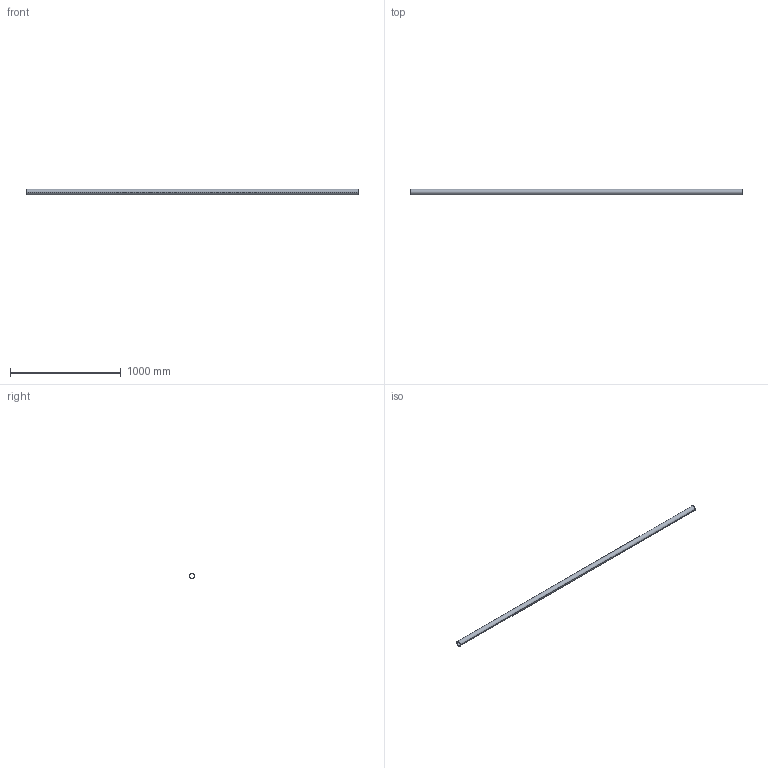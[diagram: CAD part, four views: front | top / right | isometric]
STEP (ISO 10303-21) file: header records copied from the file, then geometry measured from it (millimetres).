
FILE_DESCRIPTION (( 'STEP AP214' ), '1' );
FILE_NAME ('CCJ029-REP.341 - MAIN COURANTE PLATEFORME SUPERIEURE C1-C3.STEP', '2025-11-04T13:08:57', ( '' ), ( '' ), 'SwSTEP 2.0', 'SolidWorks 2021', '' );
FILE_SCHEMA (( 'AUTOMOTIVE_DESIGN' ));
Length unit declared in the file: millimetre
Products named in the file (1): CCJ029-REP.341 - MAIN COURANTE PLATEFORME SUPERIEURE C1-C3
Bounding box: 3004.5 x 48.3 x 48.3 mm (x, y, z)
Volume: 1080755.8 mm3; surface area: 865324.1 mm2
Topology: 1 solids, 1 shells, 6 faces, 12 edges, 8 vertices
Faces by surface type: cylinder 4, plane 2
Entity records: 202 total; most frequent: DIRECTION 34, CARTESIAN_POINT 27, ORIENTED_EDGE 24, AXIS2_PLACEMENT_3D 15, EDGE_CURVE 12, VERTEX_POINT 8, CIRCLE 8, EDGE_LOOP 8
